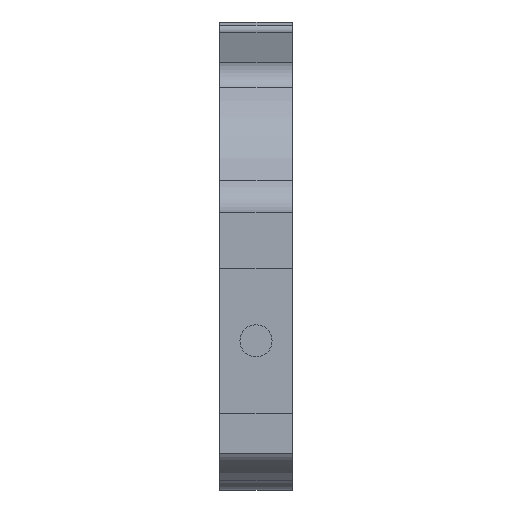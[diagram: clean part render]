
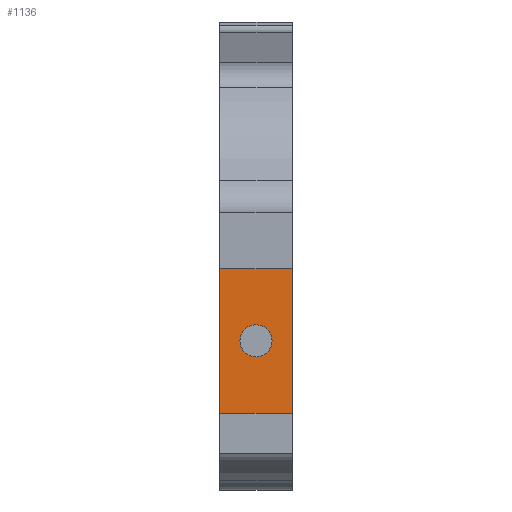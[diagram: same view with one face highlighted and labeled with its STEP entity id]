
A CAD part, front view. The second image highlights one B-rep face of the part: STEP entity #1136.
In plain terms, the highlighted planar face has unit normal (0, -1, 0).
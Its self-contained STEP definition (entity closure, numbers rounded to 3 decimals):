
#25=FACE_BOUND('',#410,.T.);
#51=LINE('',#1662,#169);
#126=LINE('',#1854,#244);
#138=LINE('',#1882,#256);
#140=LINE('',#1885,#258);
#169=VECTOR('',#1323,10.);
#244=VECTOR('',#1512,10.);
#256=VECTOR('',#1544,10.);
#258=VECTOR('',#1548,10.);
#336=FACE_OUTER_BOUND('',#409,.T.);
#409=EDGE_LOOP('',(#1001,#1002,#1003,#1004));
#410=EDGE_LOOP('',(#1005));
#440=CIRCLE('',#1178,2.);
#496=VERTEX_POINT('',#1659);
#497=VERTEX_POINT('',#1661);
#515=VERTEX_POINT('',#1704);
#556=VERTEX_POINT('',#1851);
#557=VERTEX_POINT('',#1853);
#605=EDGE_CURVE('',#496,#497,#51,.T.);
#627=EDGE_CURVE('',#515,#515,#440,.T.);
#700=EDGE_CURVE('',#556,#557,#126,.T.);
#715=EDGE_CURVE('',#557,#496,#138,.T.);
#717=EDGE_CURVE('',#497,#556,#140,.T.);
#1001=ORIENTED_EDGE('',*,*,#717,.F.);
#1002=ORIENTED_EDGE('',*,*,#605,.F.);
#1003=ORIENTED_EDGE('',*,*,#715,.F.);
#1004=ORIENTED_EDGE('',*,*,#700,.F.);
#1005=ORIENTED_EDGE('',*,*,#627,.T.);
#1075=PLANE('',#1239);
#1136=ADVANCED_FACE('',(#336,#25),#1075,.F.);
#1178=AXIS2_PLACEMENT_3D('',#1705,#1355,#1356);
#1239=AXIS2_PLACEMENT_3D('',#1886,#1549,#1550);
#1323=DIRECTION('',(0.,0.,-1.));
#1355=DIRECTION('center_axis',(0.,1.,0.));
#1356=DIRECTION('ref_axis',(1.,0.,0.));
#1512=DIRECTION('',(0.,0.,1.));
#1544=DIRECTION('',(1.,0.,0.));
#1548=DIRECTION('',(-1.,0.,0.));
#1549=DIRECTION('center_axis',(0.,1.,0.));
#1550=DIRECTION('ref_axis',(0.,0.,1.));
#1659=CARTESIAN_POINT('',(9.,6.,23.));
#1661=CARTESIAN_POINT('',(9.,6.,5.));
#1662=CARTESIAN_POINT('',(9.,6.,8.5));
#1704=CARTESIAN_POINT('',(2.5,6.,14.));
#1705=CARTESIAN_POINT('Origin',(4.5,6.,14.));
#1851=CARTESIAN_POINT('',(0.,6.,5.));
#1853=CARTESIAN_POINT('',(0.,6.,23.));
#1854=CARTESIAN_POINT('',(0.,6.,8.5));
#1882=CARTESIAN_POINT('',(0.,6.,23.));
#1885=CARTESIAN_POINT('',(9.,6.,5.));
#1886=CARTESIAN_POINT('Origin',(4.5,6.,14.));
